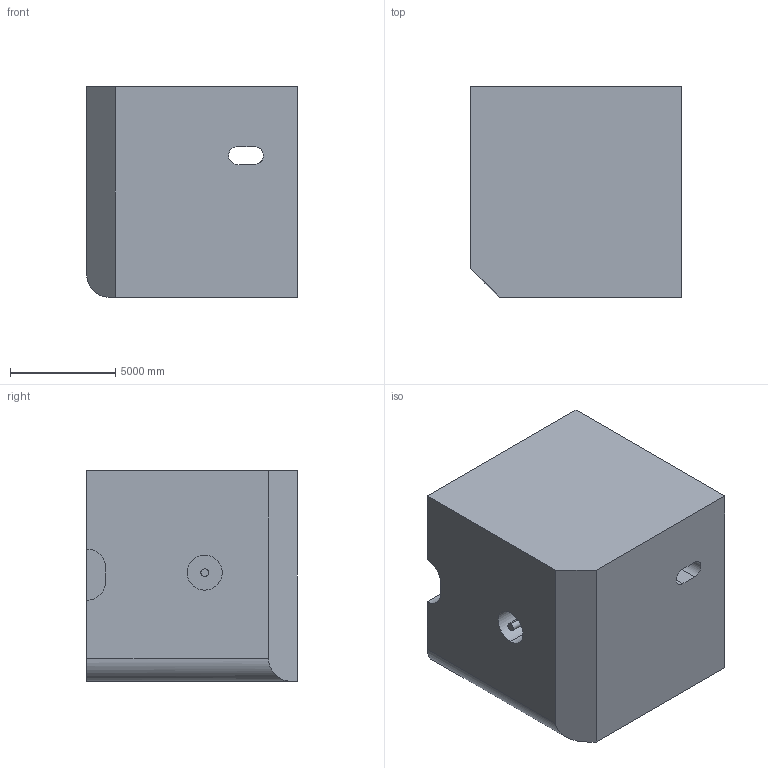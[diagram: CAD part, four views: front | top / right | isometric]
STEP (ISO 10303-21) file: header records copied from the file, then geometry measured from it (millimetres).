
FILE_DESCRIPTION (( 'STEP AP203' ), '1' );
FILE_NAME ('179.STEP', '2022-09-06T15:23:07', ( 'user' ), ( '' ), 'SwSTEP 2.0', 'SolidWorks 2021', '' );
FILE_SCHEMA (( 'CONFIG_CONTROL_DESIGN' ));
Length unit declared in the file: centimetre
Products named in the file (1): 179
Bounding box: 10000 x 10000 x 10000 mm (x, y, z)
Volume: 927855517245.5 mm3; surface area: 711336715 mm2
Topology: 1 solids, 1 shells, 32 faces, 82 edges, 54 vertices
Faces by surface type: plane 18, cylinder 14
Entity records: 1061 total; most frequent: DIRECTION 176, CARTESIAN_POINT 175, ORIENTED_EDGE 164, EDGE_CURVE 82, AXIS2_PLACEMENT_3D 63, VERTEX_POINT 54, VECTOR 50, LINE 50
